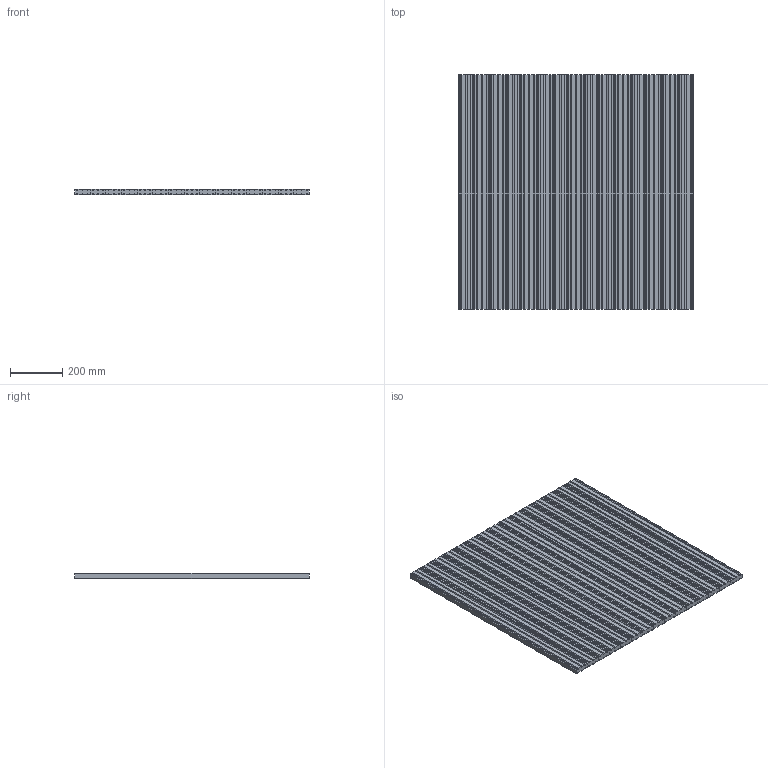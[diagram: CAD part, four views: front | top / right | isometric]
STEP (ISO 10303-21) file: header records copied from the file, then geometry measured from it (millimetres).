
FILE_DESCRIPTION(/* description */ (''),/* implementation_level */ '2;1');
FILE_NAME(/* name */ '底板.stp',/* time_stamp */ '2025-06-11T11:10:39+08:00',/* author */ (''),/* organization */ (''),/* preprocessor_version */ 'ST-DEVELOPER v16.7',/* originating_system */ 'SIEMENS PLM Software NX 12.0',/* authorisation */ '');
FILE_SCHEMA (('AUTOMOTIVE_DESIGN { 1 0 10303 214 3 1 1 1 }'));
Length unit declared in the file: millimetre
Products named in the file (1): 底板_单条
Bounding box: 900 x 900 x 20 mm (x, y, z)
Volume: 15129789.1 mm3; surface area: 2384646.6 mm2
Topology: 15 solids, 15 shells, 330 faces, 900 edges, 600 vertices
Faces by surface type: plane 240, cylinder 90
Entity records: 12789 total; most frequent: CARTESIAN_POINT 1831, ORIENTED_EDGE 1800, DIRECTION 1742, EDGE_CURVE 900, LINE 720, VECTOR 720, VERTEX_POINT 600, AXIS2_PLACEMENT_3D 511
